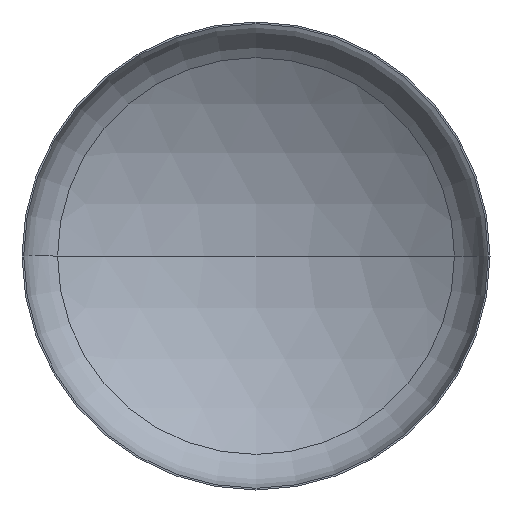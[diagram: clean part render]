
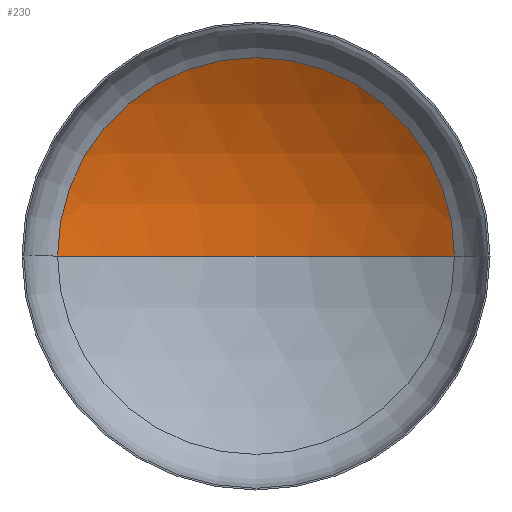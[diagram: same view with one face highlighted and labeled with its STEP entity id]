
A CAD part, front view. The second image highlights one B-rep face of the part: STEP entity #230.
In plain terms, the highlighted spherical face has radius 5200 mm.
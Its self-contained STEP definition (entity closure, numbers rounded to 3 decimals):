
#2 = EDGE_CURVE ( 'NONE', #83, #149, #146, .T. ) ;
#5 = EDGE_CURVE ( 'NONE', #45, #83, #103, .T. ) ;
#9 = FACE_OUTER_BOUND ( 'NONE', #82, .T. ) ;
#12 = CARTESIAN_POINT ( 'NONE',  ( -2756., 922.998, 0. ) ) ;
#13 = EDGE_CURVE ( 'NONE', #45, #149, #212, .T. ) ;
#36 = ORIENTED_EDGE ( 'NONE', *, *, #2, .T. ) ;
#42 = ORIENTED_EDGE ( 'NONE', *, *, #5, .T. ) ;
#45 = VERTEX_POINT ( 'NONE', #157 ) ;
#74 = ORIENTED_EDGE ( 'NONE', *, *, #13, .F. ) ;
#82 = EDGE_LOOP ( 'NONE', ( #74, #42, #36 ) ) ;
#83 = VERTEX_POINT ( 'NONE', #207 ) ;
#103 = CIRCLE ( 'NONE', #208, 5200. ) ;
#130 = CARTESIAN_POINT ( 'NONE',  ( 0., -3486.59, 0. ) ) ;
#146 = CIRCLE ( 'NONE', #192, 2756. ) ;
#149 = VERTEX_POINT ( 'NONE', #12 ) ;
#157 = CARTESIAN_POINT ( 'NONE',  ( 0., 1713.41, 0. ) ) ;
#192 = AXIS2_PLACEMENT_3D ( 'NONE', #255, #239, #232 ) ;
#207 = CARTESIAN_POINT ( 'NONE',  ( 2756., 922.998, 0. ) ) ;
#208 = AXIS2_PLACEMENT_3D ( 'NONE', #228, #226, #209 ) ;
#209 = DIRECTION ( 'NONE',  ( -1., 0., 0. ) ) ;
#212 = CIRCLE ( 'NONE', #242, 5200. ) ;
#225 = SPHERICAL_SURFACE ( 'NONE', #247, 5200. ) ;
#226 = DIRECTION ( 'NONE',  ( 0., 0., -1. ) ) ;
#228 = CARTESIAN_POINT ( 'NONE',  ( 0., -3486.59, 0. ) ) ;
#230 = ADVANCED_FACE ( 'NONE', ( #9 ), #225, .F. ) ;
#232 = DIRECTION ( 'NONE',  ( 1., 0., 0. ) ) ;
#239 = DIRECTION ( 'NONE',  ( 0., -1., 0. ) ) ;
#242 = AXIS2_PLACEMENT_3D ( 'NONE', #312, #311, #310 ) ;
#247 = AXIS2_PLACEMENT_3D ( 'NONE', #130, #392, #342 ) ;
#255 = CARTESIAN_POINT ( 'NONE',  ( 0., 922.998, 0. ) ) ;
#310 = DIRECTION ( 'NONE',  ( 1., 0., 0. ) ) ;
#311 = DIRECTION ( 'NONE',  ( 0., 0., 1. ) ) ;
#312 = CARTESIAN_POINT ( 'NONE',  ( 0., -3486.59, 0. ) ) ;
#342 = DIRECTION ( 'NONE',  ( -1., 0., 0. ) ) ;
#392 = DIRECTION ( 'NONE',  ( 0., 0., -1. ) ) ;
